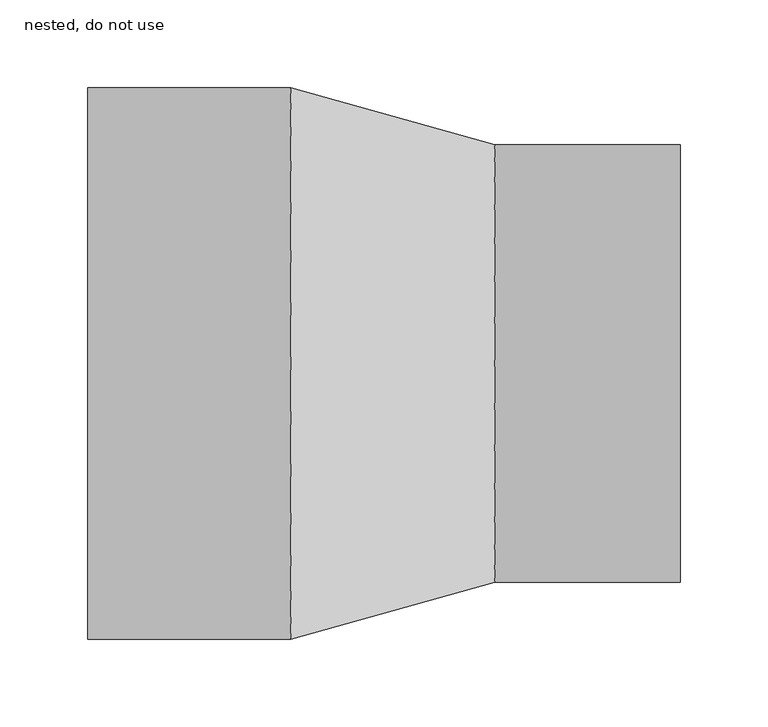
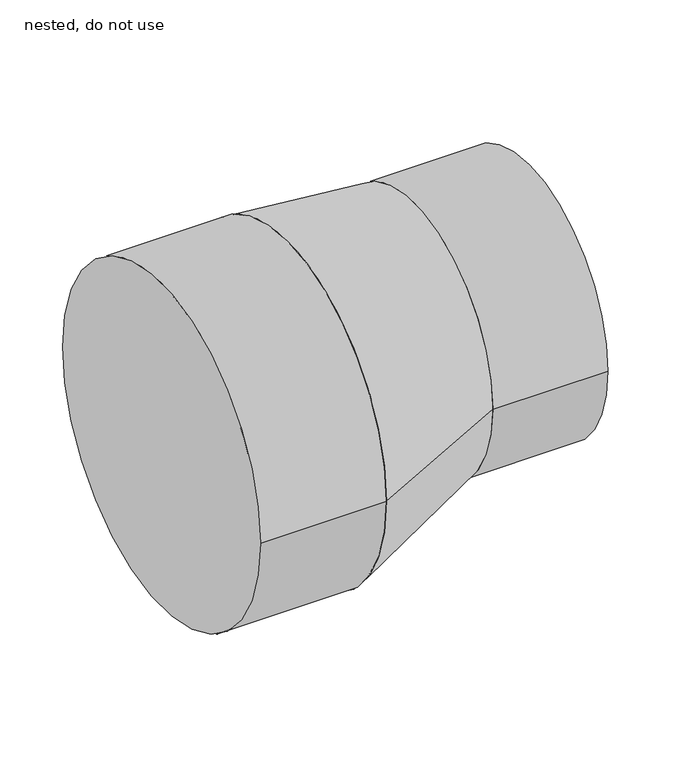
"""IFC4 building model written with IfcOpenShell, lengths in millimetres: pipe fitting geometry, NLRS_52_PIF_UN_HDPE reducer -SH_Akatherm : nested, do not use."""

from ifc_helpers import new_model, si_unit, point, frame, frame_2d, origin, origin_2d, place, context, project, spatial, circle_curve, trimmed, segment, composite_curve, outline, extrude, source, transform, mapped, element, save
from ifc_brep_helpers import plane_surface, spline_surface, advanced_brep


def nested_do_not_use_b0c1b68e(model_context):
    return source(origin(), model_context, "Body", "SolidModel", [
        advanced_brep(
        [(63.25, -125.0, 29.0), (63.25, 125.0, 29.0), (-53.25, -157.5, 0.0), (-53.25, 157.5, 0.0)],
        [
            (0, 1, circle_curve(frame((63.25, 0.0, 29.0), z_axis=(1.0, 0.0, 0.0), x_axis=(0.0, 1.0, 0.0)), 125.0)),
            (1, 0, circle_curve(frame((63.25, 0.0, 29.0), z_axis=(1.0, 0.0, 0.0), x_axis=(0.0, 1.0, 0.0)), 125.0)),
            (2, 3, circle_curve(frame((-53.25, 0.0, 0.0), z_axis=(-1.0, 0.0, 0.0), x_axis=(0.0, 1.0, 0.0)), 157.5)),
            (3, 2, circle_curve(frame((-53.25, 0.0, 0.0), z_axis=(-1.0, 0.0, 0.0), x_axis=(0.0, 1.0, 0.0)), 157.5)),
            (3, 1),
            (0, 2),
        ],
        [
            plane_surface(frame((63.25, 0.0, 29.0), z_axis=(1.0, 0.0, 0.0), x_axis=(0.0, 0.0, -1.0))),
            plane_surface(frame((-53.25, 0.0, 0.0), z_axis=(-1.0, 0.0, 0.0), x_axis=(0.0, 0.0, -1.0))),
            spline_surface(2, 1, [[(-53.25, -157.5, 0.0), (63.25, -125.0, 29.0)], [(-53.25, -157.5, -157.5), (63.25, -125.0, -96.0)], [(-53.25, 0.0, -157.5), (63.25, 0.0, -96.0)], [(-53.25, 157.5, -157.5), (63.25, 125.0, -96.0)], [(-53.25, 157.5, 0.0), (63.25, 125.0, 29.0)]], [3, 2, 3], [2, 2], [0.0, 1.0, 2.0], [0.0, 1.0], weights=[[1.0, 1.0], [0.7071067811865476, 0.7071067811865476], [1.0, 1.0], [0.7071067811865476, 0.7071067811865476], [1.0, 1.0]]),
            spline_surface(2, 1, [[(-53.25, 157.5, 0.0), (63.25, 125.0, 29.0)], [(-53.25, 157.5, 157.5), (63.25, 125.0, 154.0)], [(-53.25, 0.0, 157.5), (63.25, 0.0, 154.0)], [(-53.25, -157.5, 157.5), (63.25, -125.0, 154.0)], [(-53.25, -157.5, 0.0), (63.25, -125.0, 29.0)]], [3, 2, 3], [2, 2], [0.0, 1.0, 2.0], [0.0, 1.0], weights=[[1.0, 1.0], [0.7071067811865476, 0.7071067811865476], [1.0, 1.0], [0.7071067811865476, 0.7071067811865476], [1.0, 1.0]]),
        ],
        [
            (0, [[1, 2]]),
            (1, [[3, 4]]),
            (2, [[-4, 5, -1, 6]]),
            (3, [[-3, -6, -2, -5]]),
        ],
    ),
        extrude(outline(composite_curve([segment(trimmed(circle_curve(frame_2d((0.0, 29.0)), 125.0), [point((-125.0, 29.0))], [point((125.0, 29.0))], False, "CARTESIAN"), True, "CONTINUOUS"), segment(trimmed(circle_curve(frame_2d((0.0, 29.0)), 125.0), [point((125.0, 29.0))], [point((-125.0, 29.0))], False, "CARTESIAN"), True, "CONTINUOUS")], self_intersect=False)), frame((63.25, 0.0, 0.0), z_axis=(1.0, 0.0, 0.0), x_axis=(0.0, 1.0, 0.0)), (0.0, 0.0, 1.0), 106.0),
        extrude(outline(composite_curve([segment(trimmed(circle_curve(origin_2d(), 157.5), [point((-157.5, 0.0))], [point((157.5, 0.0))], False, "CARTESIAN"), True, "CONTINUOUS"), segment(trimmed(circle_curve(origin_2d(), 157.5), [point((157.5, 0.0))], [point((-157.5, 0.0))], False, "CARTESIAN"), True, "CONTINUOUS")], self_intersect=False)), frame((-169.25, 0.0, 0.0), z_axis=(1.0, 0.0, 0.0), x_axis=(0.0, 1.0, 0.0)), (0.0, 0.0, 1.0), 116.0),
    ])


if __name__ == "__main__":
    model = new_model("IFC4")
    model_context = context("Model", 3, world=origin())
    ifc_project = project(units=[si_unit("LENGTHUNIT", "METRE", prefix="MILLI")], contexts=[model_context])
    site = spatial("IfcSite", under=ifc_project)
    building = spatial("IfcBuilding", under=site)
    placement = place(None, origin())
    nested_do_not_use_shape = nested_do_not_use_b0c1b68e(model_context)
    element("IfcPipeFitting", 1, ObjectType="NLRS_52_PIF_UN_HDPE reducer -SH_Akatherm : nested, do not use", at=placement, inside=building, context=model_context, shape_type="MappedRepresentation", body=[
        mapped(nested_do_not_use_shape, transform((0.0, 0.0, 0.0), x_axis=(1.0, 0.0, 0.0), y_axis=(0.0, 1.0, 0.0), z_axis=(0.0, 0.0, 1.0))),
    ])
    save(model, "model.ifc")
